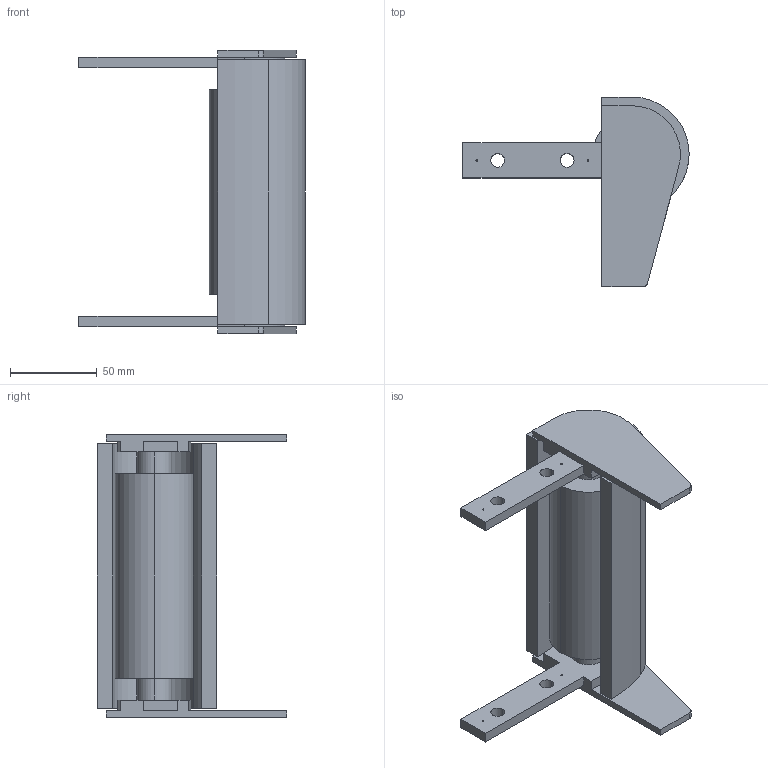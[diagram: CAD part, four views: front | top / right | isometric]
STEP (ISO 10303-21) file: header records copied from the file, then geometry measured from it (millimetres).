
FILE_DESCRIPTION (( 'STEP AP214' ), '1' );
FILE_NAME ('FS-160-MTS-100.ALU omloop 160.STEP', '2017-02-08T12:09:48', ( '' ), ( '' ), 'SwSTEP 2.0', 'SolidWorks 2016', '' );
FILE_SCHEMA (( 'AUTOMOTIVE_DESIGN' ));
Length unit declared in the file: millimetre
Products named in the file (1): FS-160-MTS-100.ALU omloop 160
Bounding box: 130.3 x 109 x 163 mm (x, y, z)
Volume: 428168.7 mm3; surface area: 90813.2 mm2
Topology: 2 solids, 2 shells, 70 faces, 186 edges, 124 vertices
Faces by surface type: cylinder 36, plane 34
Entity records: 2277 total; most frequent: DIRECTION 400, CARTESIAN_POINT 381, ORIENTED_EDGE 372, EDGE_CURVE 186, AXIS2_PLACEMENT_3D 143, VERTEX_POINT 124, VECTOR 114, LINE 114
